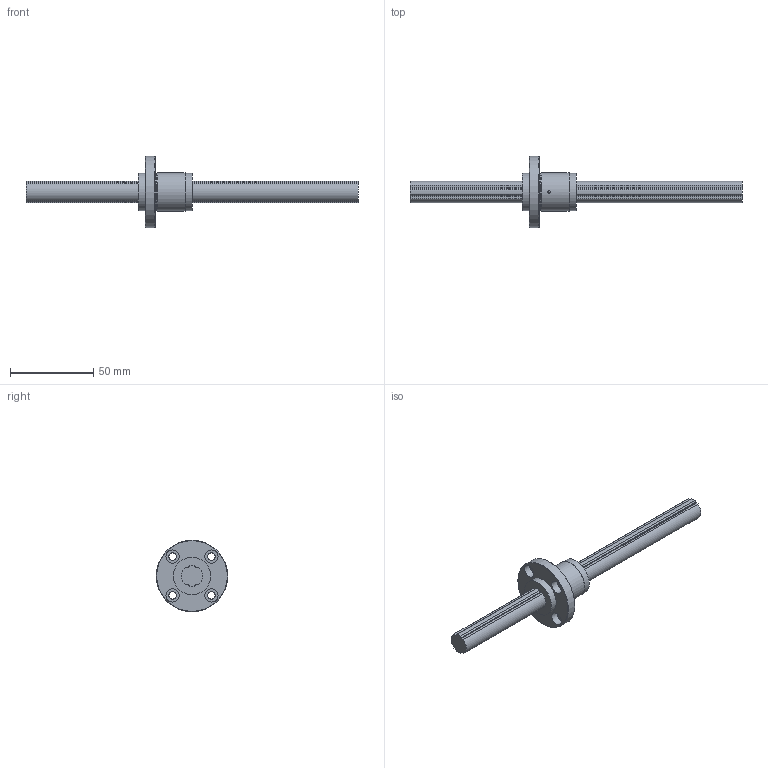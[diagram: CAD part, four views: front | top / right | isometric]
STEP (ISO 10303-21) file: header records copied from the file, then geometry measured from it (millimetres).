
FILE_DESCRIPTION(/* description */ ('STEP AP214'),/* implementation_level */ '2;1');
FILE_NAME(/* name */ 'LF13X+200L(00)',/* time_stamp */ '2024-09-05T14:46:33+02:00',/* author */ ('License CC BY-ND 4.0'),/* organization */ ('CADENAS'),/* preprocessor_version */ 'ST-DEVELOPER v19.3',/* originating_system */ 'PARTsolutions',/* authorisation */ ' ');
FILE_SCHEMA (('AUTOMOTIVE_DESIGN {1 0 10303 214 3 1 1}'));
Length unit declared in the file: millimetre
Products named in the file (3): LF13X+200L(00); 1LT13X 200Shaft; 1LF13X Cylindar
Assembly tree (2 placements, depth 2):
  LF13X+200L(00)
    1LT13X 200Shaft
    1LF13X Cylindar
Bounding box: 200 x 43 x 43 mm (x, y, z)
Volume: 39858.8 mm3; surface area: 15849 mm2
Topology: 2 solids, 2 shells, 77 faces, 196 edges, 129 vertices
Faces by surface type: cylinder 47, plane 27, cone 3
Full cylindrical faces by diameter (mm): 1.5 x2, 4.5 x4, 8 x4, 22.6 x3, 23 x1, 43 x1
Entity records: 2393 total; most frequent: DIRECTION 424, CARTESIAN_POINT 424, ORIENTED_EDGE 352, EDGE_CURVE 176, AXIS2_PLACEMENT_3D 172, VERTEX_POINT 128, EDGE_LOOP 116, FACE_BOUND 116
